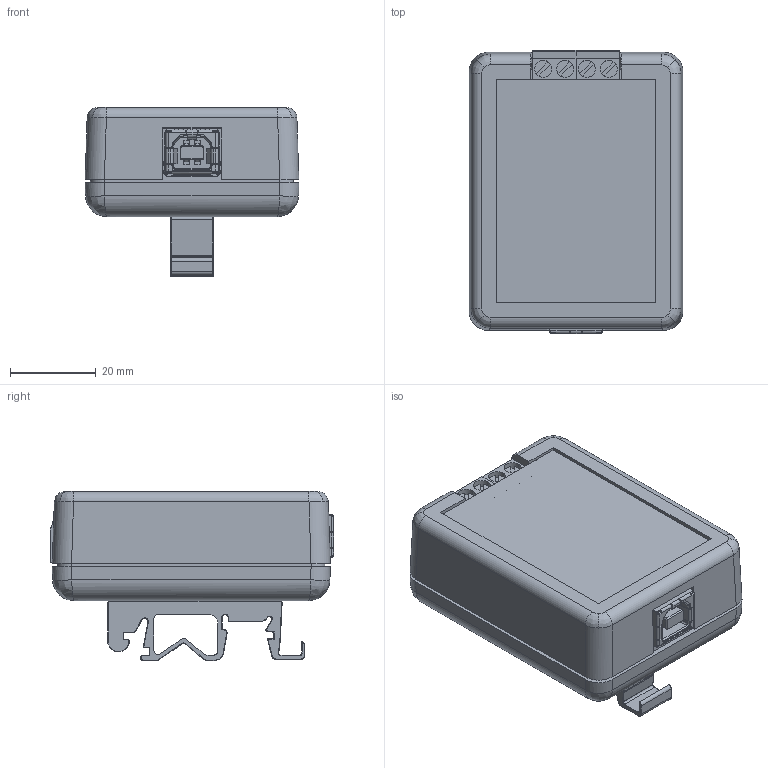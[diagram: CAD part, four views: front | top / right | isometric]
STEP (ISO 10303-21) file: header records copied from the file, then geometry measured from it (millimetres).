
FILE_DESCRIPTION (( 'STEP AP214' ), '1' );
FILE_NAME ('Mini-ADU, 4-Pos, DIN.STEP', '2018-09-24T19:42:56', ( '' ), ( '' ), 'SwSTEP 2.0', 'SolidWorks 2014', '' );
FILE_SCHEMA (( 'AUTOMOTIVE_DESIGN' ));
Length unit declared in the file: inch
Products named in the file (10): USB; Wieland_25.163.0253.0_CAD STEP data; Circuit Board; M3  SERIES 29 LNG; 1593 Screw (19-1; MiniADU; Mini-ADU, 4-Pos, DIN; 90272A144_ZINC-PLTD STL PAN HEAD PHILLIPS MACHINE SCREW_90272A144; 1427DINCLIP; Decal ADU222
Assembly tree (17 placements, depth 2):
  Mini-ADU, 4-Pos, DIN
    MiniADU
    1593 Screw (19-1  x4
    M3  SERIES 29 LNG  x4
    Circuit Board
    Wieland_25.163.0253.0_CAD STEP data  x2
    USB
    Decal ADU222
    1427DINCLIP
    90272A144_ZINC-PLTD STL PAN HEAD PHILLIPS MACHINE SCREW_90272A144  x2
Bounding box: 50 x 66.18 x 39.5 mm (x, y, z)
Volume: 38053.5 mm3; surface area: 43135.5 mm2
Topology: 17 solids, 18 shells, 2129 faces, 5668 edges, 3635 vertices
Faces by surface type: plane 1216, cylinder 521, bspline 278, cone 94, torus 16, sphere 4
Entity records: 73670 total; most frequent: CARTESIAN_POINT 24948, ORIENTED_EDGE 9706, DIRECTION 7818, EDGE_CURVE 4857, LINE 3184, VECTOR 3184, VERTEX_POINT 3118, AXIS2_PLACEMENT_3D 2317
